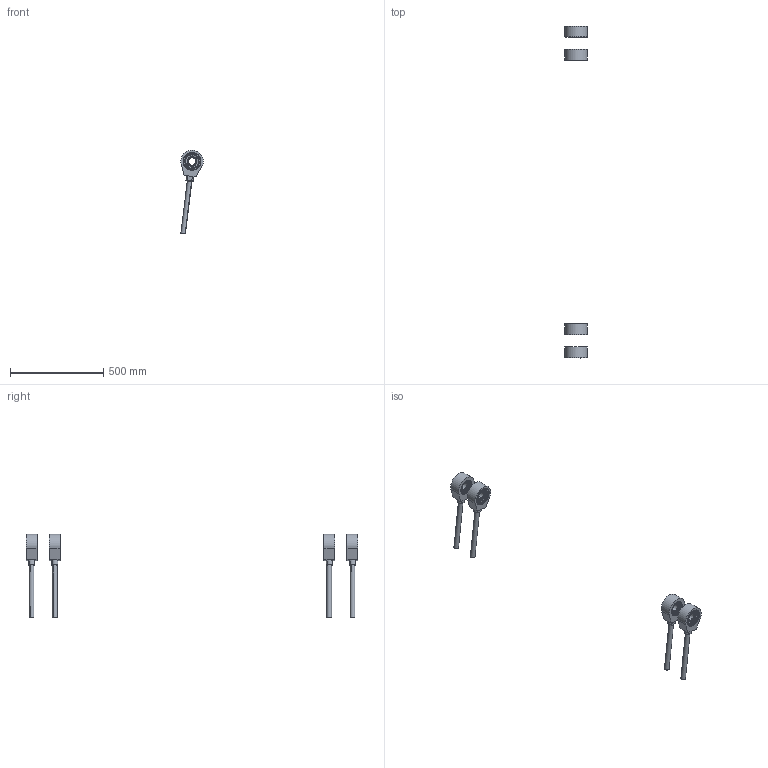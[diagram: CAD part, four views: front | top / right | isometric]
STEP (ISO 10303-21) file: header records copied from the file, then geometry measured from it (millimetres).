
FILE_DESCRIPTION(('CATIA V5 STEP Exchange','CAx-IF Rec.Pracs.--- Model Styling and Organization---1.2---2011-12-15','CAx-IF Rec.Pracs.--- Geometric and Assembly Validation Properties ---3.1---2011-10-19'),'2;1');
FILE_NAME('Z:\ROBOT\CATIA06\products\MC1000DL\Light_model\Step\135_J2Balancer_Pull_Rod_MC1000DL-02.stp','2016-12-26T04:03:15+00:00',('none'),('none'),'Version 5-6 Release 2012','CATIA V5 STEP AP214','none');
FILE_SCHEMA(('AUTOMOTIVE_DESIGN { 1 0 10303 214 1 1 1 1 }'));
Length unit declared in the file: millimetre
Products named in the file (1): 135_J2Balancer_Pull_Rod_MC1000DL-02
Bounding box: 120.3 x 1784 x 448.54 mm (x, y, z)
Volume: 3057926.2 mm3; surface area: 518296 mm2
Topology: 20 solids, 24 shells, 564 faces, 1160 edges, 688 vertices
Faces by surface type: cone 168, torus 152, cylinder 116, plane 112, sphere 16
Entity records: 14679 total; most frequent: CARTESIAN_POINT 2458, ORIENTED_EDGE 2320, DIRECTION 1736, EDGE_CURVE 1160, AXIS2_PLACEMENT_3D 1101, CIRCLE 792, VERTEX_POINT 688, EDGE_LOOP 648
